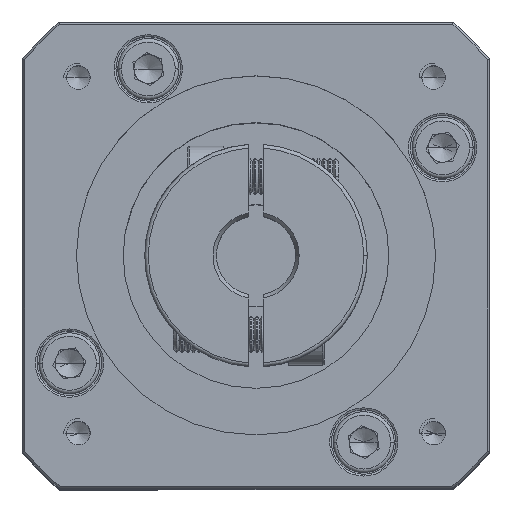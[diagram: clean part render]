
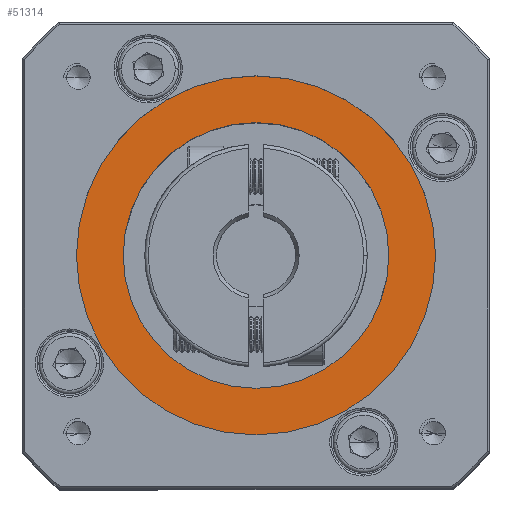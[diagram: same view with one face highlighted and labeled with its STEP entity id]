
A CAD part, top view. The second image highlights one B-rep face of the part: STEP entity #51314.
In plain terms, the highlighted planar face has unit normal (0, 0, 1).
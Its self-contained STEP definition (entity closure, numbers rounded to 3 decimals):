
#3356 = EDGE_LOOP ( 'NONE', ( #83713, #99970 ) ) ;
#5480 = VERTEX_POINT ( 'NONE', #22016 ) ;
#7135 = DIRECTION ( 'NONE',  ( 1., 0., 0. ) ) ;
#7311 = CARTESIAN_POINT ( 'NONE',  ( -24.543, 43.056, -2.01 ) ) ;
#7760 = DIRECTION ( 'NONE',  ( 1., 0., 0. ) ) ;
#8210 = CARTESIAN_POINT ( 'NONE',  ( -24.543, 43.056, -2.01 ) ) ;
#9380 = CARTESIAN_POINT ( 'NONE',  ( 0.457, 43.056, -2.01 ) ) ;
#9505 = AXIS2_PLACEMENT_3D ( 'NONE', #51813, #114659, #78427 ) ;
#22016 = CARTESIAN_POINT ( 'NONE',  ( -49.543, 43.056, -2.01 ) ) ;
#22269 = VERTEX_POINT ( 'NONE', #9380 ) ;
#24786 = EDGE_LOOP ( 'NONE', ( #76516, #113258 ) ) ;
#26256 = EDGE_CURVE ( 'NONE', #51559, #117474, #111342, .T. ) ;
#28867 = CARTESIAN_POINT ( 'NONE',  ( -6.043, 43.056, -2.01 ) ) ;
#29044 = FACE_OUTER_BOUND ( 'NONE', #24786, .T. ) ;
#44448 = AXIS2_PLACEMENT_3D ( 'NONE', #61915, #52376, #7135 ) ;
#45918 = AXIS2_PLACEMENT_3D ( 'NONE', #8210, #53477, #108749 ) ;
#48774 = CIRCLE ( 'NONE', #44448, 25. ) ;
#50465 = CIRCLE ( 'NONE', #85824, 18.5 ) ;
#51314 = ADVANCED_FACE ( 'NONE', ( #29044, #80141 ), #89512, .T. ) ;
#51559 = VERTEX_POINT ( 'NONE', #28867 ) ;
#51813 = CARTESIAN_POINT ( 'NONE',  ( -24.543, 43.056, -2.01 ) ) ;
#52376 = DIRECTION ( 'NONE',  ( 0., 0., 1. ) ) ;
#53477 = DIRECTION ( 'NONE',  ( 0., 0., 1. ) ) ;
#54223 = CARTESIAN_POINT ( 'NONE',  ( -43.043, 43.056, -2.01 ) ) ;
#61915 = CARTESIAN_POINT ( 'NONE',  ( -24.543, 43.056, -2.01 ) ) ;
#71722 = CARTESIAN_POINT ( 'NONE',  ( -24.543, 43.056, -2.01 ) ) ;
#73920 = EDGE_CURVE ( 'NONE', #5480, #22269, #88372, .T. ) ;
#76516 = ORIENTED_EDGE ( 'NONE', *, *, #109084, .T. ) ;
#78427 = DIRECTION ( 'NONE',  ( 1., 0., 0. ) ) ;
#79933 = DIRECTION ( 'NONE',  ( 0., 0., -1. ) ) ;
#80141 = FACE_BOUND ( 'NONE', #3356, .T. ) ;
#83713 = ORIENTED_EDGE ( 'NONE', *, *, #26256, .T. ) ;
#85824 = AXIS2_PLACEMENT_3D ( 'NONE', #7311, #79933, #116163 ) ;
#88372 = CIRCLE ( 'NONE', #94057, 25. ) ;
#89512 = PLANE ( 'NONE',  #45918 ) ;
#94057 = AXIS2_PLACEMENT_3D ( 'NONE', #71722, #107141, #7760 ) ;
#99086 = EDGE_CURVE ( 'NONE', #117474, #51559, #50465, .T. ) ;
#99970 = ORIENTED_EDGE ( 'NONE', *, *, #99086, .T. ) ;
#107141 = DIRECTION ( 'NONE',  ( 0., 0., 1. ) ) ;
#108749 = DIRECTION ( 'NONE',  ( 1., 0., 0. ) ) ;
#109084 = EDGE_CURVE ( 'NONE', #22269, #5480, #48774, .T. ) ;
#111342 = CIRCLE ( 'NONE', #9505, 18.5 ) ;
#113258 = ORIENTED_EDGE ( 'NONE', *, *, #73920, .T. ) ;
#114659 = DIRECTION ( 'NONE',  ( 0., 0., -1. ) ) ;
#116163 = DIRECTION ( 'NONE',  ( 1., 0., 0. ) ) ;
#117474 = VERTEX_POINT ( 'NONE', #54223 ) ;
